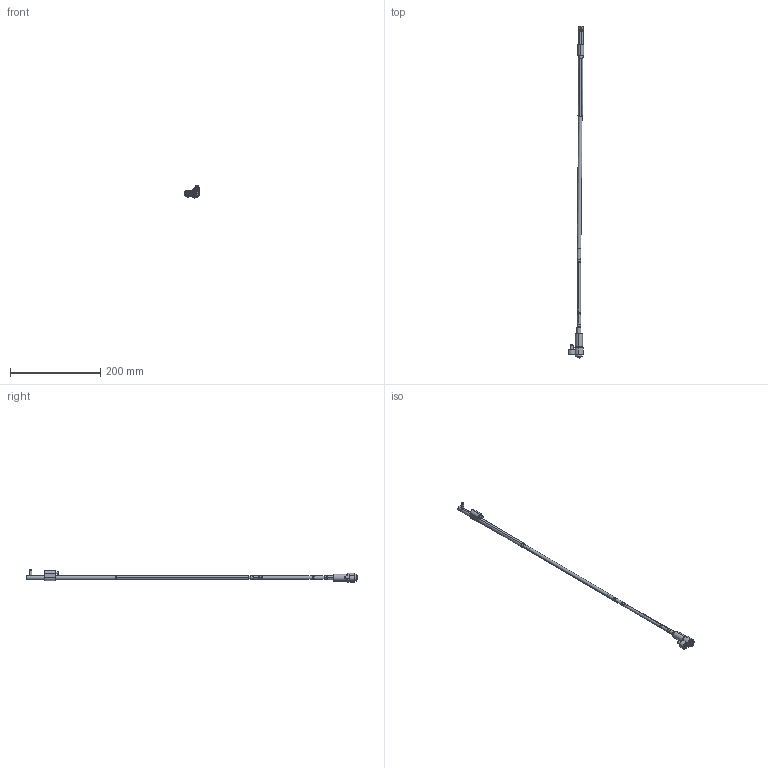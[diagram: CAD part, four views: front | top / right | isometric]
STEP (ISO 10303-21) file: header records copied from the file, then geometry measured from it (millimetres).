
FILE_DESCRIPTION (( 'STEP AP214' ), '1' );
FILE_NAME ('WL080100L-INJ 0,5°.STEP', '2021-03-19T15:25:39', ( '' ), ( '' ), 'SwSTEP 2.0', 'SolidWorks 2019', '' );
FILE_SCHEMA (( 'AUTOMOTIVE_DESIGN' ));
Length unit declared in the file: millimetre
Products named in the file (17): Web-WL08-A3; Web-WL08-A2; Web-WL08XX-A7_OFF-WL080100-0,5; 1DIN912545_DIN 912 M5 x 50 --- 50C; Web-WL08-F01; Web-WL08-A1; WL080100L-INJ 0,5°; 3IMAN4X2-150_con sello; Web-WP08-1; 1DIN912616_DIN 912 M6 x 16 --- 16C; WL080100-B_WL0800FF; WL080100-D; WL080100-C; Web-WL08-F00.SLDPRT; 9DR2206-TOR; WL080100-B1_WL0800FF-1; WL080100-E
Assembly tree (16 placements, depth 3):
  WL080100L-INJ 0,5°
    Web-WP08-1
    Web-WL08XX-A7_OFF-WL080100-0,5
    Web-WL08-A3
    Web-WL08-A2
    Web-WL08-A1
    WL080100-D
    WL080100-C
    WL080100-B_WL0800FF
      WL080100-B1_WL0800FF-1
      3IMAN4X2-150_con sello
    WL080100-E
    9DR2206-TOR
    Web-WL08-F00.SLDPRT
      Web-WL08-F01
      1DIN912545_DIN 912 M5 x 50 --- 50C
      1DIN912616_DIN 912 M6 x 16 --- 16C
Bounding box: 34.62 x 737.02 x 26.9 mm (x, y, z)
Volume: 57313.6 mm3; surface area: 33636.1 mm2
Topology: 15 solids, 15 shells, 424 faces, 888 edges, 516 vertices
Faces by surface type: plane 132, cylinder 128, cone 116, torus 48
Entity records: 13492 total; most frequent: DIRECTION 2218, CARTESIAN_POINT 2045, ORIENTED_EDGE 1756, AXIS2_PLACEMENT_3D 921, EDGE_CURVE 878, VERTEX_POINT 516, CIRCLE 476, EDGE_LOOP 468
